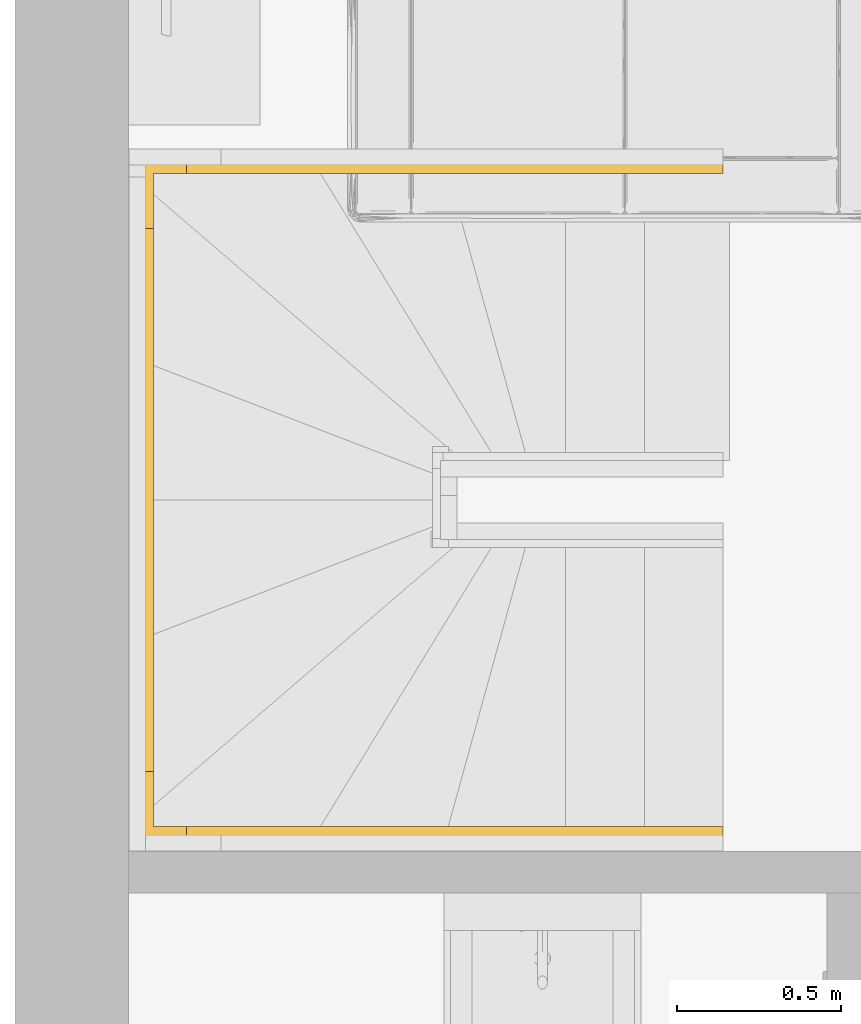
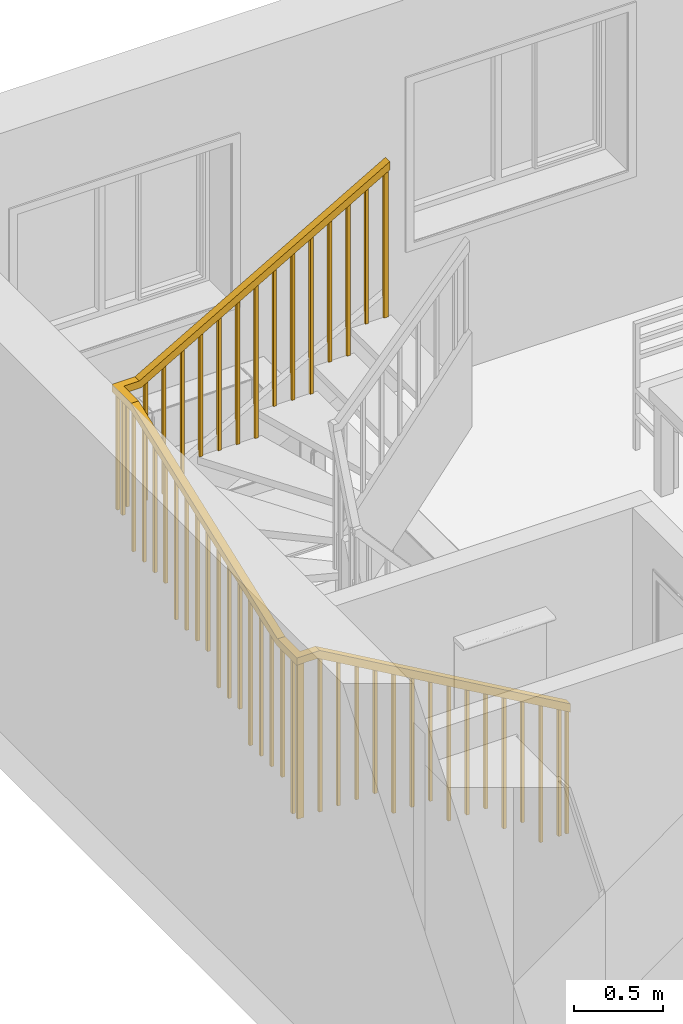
# One storey, part 30 of 65: 1 railing, 1 element without a shape of its own.
"""IFC2X3 building model written with IfcOpenShell, lengths in millimetres."""

from ifc_helpers import new_model, entity, si_unit, converted_unit, direction, frame, origin, place, context, subcontext, project, spatial, faceted_brep, material, type_object, element, aggregate, save


model = new_model("IFC2X3")

# Units and contexts
model_context = context("Model", 3, precision=0.01, world=origin(), true_north=direction((0.0, 1.0)))
body_context = subcontext(model_context, "Body", "Model", "MODEL_VIEW")
ifc_project = project(units=[si_unit("LENGTHUNIT", "METRE", prefix="MILLI"), si_unit("AREAUNIT", "SQUARE_METRE"), si_unit("VOLUMEUNIT", "CUBIC_METRE"), converted_unit("PLANEANGLEUNIT", "DEGREE", entity("IfcPlaneAngleMeasure", 0.017453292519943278), si_unit("PLANEANGLEUNIT", "RADIAN"), dimensions=[0, 0, 0, 0, 0, 0, 0])], contexts=[model_context])

# Site, building, storey
site_placement = place(None, origin())
site = spatial("IfcSite", under=ifc_project, at=site_placement, Name="Default", CompositionType="ELEMENT")
building_placement = place(site_placement, origin())
building = spatial("IfcBuilding", under=site, at=building_placement, CompositionType="ELEMENT")
storey_placement = place(building_placement, origin())
storey = spatial("IfcBuildingStorey", under=building, at=storey_placement, Name="Et. 1", CompositionType="ELEMENT", Elevation=0.0)

# Stair, railing
type_product = type_object("IfcTypeProduct", Name="Assembled Stair:Tretrapp - Åpne trinn m/ vanger")
stair_placement = place(storey_placement, origin())
stair = element("IfcStair", 1, at=stair_placement, inside=storey, type_object=type_product, Name="Assembled Stair:Stair", ShapeType="NOTDEFINED")
ifc_material = material(Name="Metall - Malt - MØRK GRÅ MATT")
railing_type = type_object("IfcRailingType", Name="Railing:900mm", PredefinedType="NOTDEFINED")
railing_placement = place(stair_placement, frame((10463.268455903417, 14245.55178763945, 178.73333333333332)))
railing = element("IfcRailing", 2, at=railing_placement, type_object=railing_type, material=ifc_material, Name="Railing:900mm", PredefinedType="NOTDEFINED", context=body_context, shape_type="Brep", body=[
    faceted_brep([(1755.0, 2054.199999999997, 3334.94499683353), (1755.0, 2074.199999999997, 3334.94499683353), (1755.0, 2074.199999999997, 2323.5333333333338), (1755.0, 2054.199999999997, 2323.5333333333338), (1775.0, 2074.199999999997, 3346.4569725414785), (1775.0, 2074.199999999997, 2323.5333333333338), (1775.0, 2054.199999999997, 3346.4569725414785), (1775.0, 2054.199999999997, 2323.5333333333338)], [[[0, 1, 2, 3]], [[1, 4, 5, 2]], [[4, 6, 7, 5]], [[3, 7, 6, 0]], [[0, 6, 4, 1]], [[2, 5, 7, 3]]]),
    faceted_brep([(1635.0, 2054.199999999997, 3265.8731425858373), (1635.0, 2074.199999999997, 3265.8731425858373), (1635.0, 2074.199999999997, 2323.5333333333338), (1635.0, 2054.199999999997, 2323.5333333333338), (1655.0, 2074.199999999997, 3277.385118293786), (1655.0, 2074.199999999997, 2323.5333333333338), (1655.0, 2054.199999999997, 3277.385118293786), (1655.0, 2054.199999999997, 2323.5333333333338)], [[[0, 1, 2, 3]], [[1, 4, 5, 2]], [[4, 6, 7, 5]], [[3, 7, 6, 0]], [[0, 6, 4, 1]], [[2, 5, 7, 3]]]),
    faceted_brep([(1515.0, 2054.199999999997, 3196.801288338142), (1515.0, 2074.199999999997, 3196.8012883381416), (1515.0, 2074.199999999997, 2144.8), (1515.0, 2054.199999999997, 2144.8000000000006), (1535.0, 2074.199999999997, 3208.313264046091), (1535.0, 2074.199999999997, 2144.8), (1535.0, 2054.199999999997, 3208.313264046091), (1535.0, 2054.199999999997, 2144.8)], [[[0, 1, 2, 3]], [[1, 4, 5, 2]], [[4, 6, 7, 5]], [[3, 7, 6, 0]], [[0, 6, 4, 1]], [[2, 5, 7, 3]]]),
    faceted_brep([(1395.0, 2054.199999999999, 3127.72943409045), (1395.0, 2074.199999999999, 3127.72943409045), (1395.0, 2074.199999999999, 2144.8000000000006), (1395.0, 2054.199999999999, 2144.8000000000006), (1415.0, 2074.199999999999, 3139.241409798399), (1415.0, 2074.199999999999, 2144.8000000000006), (1415.0, 2054.199999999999, 3139.241409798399), (1415.0, 2054.199999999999, 2144.8000000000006)], [[[0, 1, 2, 3]], [[1, 4, 5, 2]], [[4, 6, 7, 5]], [[3, 7, 6, 0]], [[0, 6, 4, 1]], [[2, 5, 7, 3]]]),
    faceted_brep([(1275.0, 2054.199999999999, 3058.6575798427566), (1275.0, 2074.199999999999, 3058.6575798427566), (1275.0, 2074.199999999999, 1966.0666666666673), (1275.0, 2054.199999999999, 1966.0666666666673), (1295.0, 2074.199999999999, 3070.169555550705), (1295.0, 2074.199999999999, 1966.0666666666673), (1295.0, 2054.199999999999, 3070.169555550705), (1295.0, 2054.199999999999, 1966.0666666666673)], [[[0, 1, 2, 3]], [[1, 4, 5, 2]], [[4, 6, 7, 5]], [[3, 7, 6, 0]], [[0, 6, 4, 1]], [[2, 5, 7, 3]]]),
    faceted_brep([(1155.0, 2054.199999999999, 2989.585725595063), (1155.0, 2074.199999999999, 2989.585725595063), (1155.0, 2074.199999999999, 1966.0666666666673), (1155.0, 2054.199999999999, 1966.0666666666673), (1175.0, 2074.199999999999, 3001.097701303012), (1175.0, 2074.199999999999, 1966.0666666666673), (1175.0, 2054.199999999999, 3001.097701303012), (1175.0, 2054.199999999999, 1966.0666666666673)], [[[0, 1, 2, 3]], [[1, 4, 5, 2]], [[4, 6, 7, 5]], [[3, 7, 6, 0]], [[0, 6, 4, 1]], [[2, 5, 7, 3]]]),
    faceted_brep([(1035.0, 2054.199999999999, 2920.5138713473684), (1035.0, 2074.199999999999, 2920.5138713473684), (1035.0, 2074.199999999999, 1966.0666666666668), (1035.0, 2054.199999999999, 1966.0666666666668), (1055.0, 2074.199999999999, 2932.0258470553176), (1055.0, 2074.199999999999, 1966.0666666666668), (1055.0, 2054.199999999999, 2932.0258470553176), (1055.0, 2054.199999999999, 1966.0666666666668)], [[[0, 1, 2, 3]], [[1, 4, 5, 2]], [[4, 6, 7, 5]], [[3, 7, 6, 0]], [[0, 6, 4, 1]], [[2, 5, 7, 3]]]),
    faceted_brep([(915.0, 2054.199999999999, 2851.4420170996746), (915.0, 2074.199999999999, 2851.4420170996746), (915.0, 2074.199999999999, 1787.3333333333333), (915.0, 2054.199999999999, 1787.3333333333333), (935.0, 2074.199999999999, 2862.953992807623), (935.0, 2074.199999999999, 1787.3333333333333), (935.0, 2054.199999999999, 2862.953992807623), (935.0, 2054.199999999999, 1787.3333333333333)], [[[0, 1, 2, 3]], [[1, 4, 5, 2]], [[4, 6, 7, 5]], [[3, 7, 6, 0]], [[0, 6, 4, 1]], [[2, 5, 7, 3]]]),
    faceted_brep([(795.0, 2054.2000000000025, 2782.3701628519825), (795.0, 2074.2000000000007, 2782.3701628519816), (795.0, 2074.2000000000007, 1787.333333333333), (795.0, 2054.2000000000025, 1787.333333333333), (815.0, 2074.2000000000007, 2793.882138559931), (815.0, 2074.2000000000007, 1787.333333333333), (815.0, 2054.2000000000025, 2793.882138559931), (815.0, 2054.2000000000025, 1787.333333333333)], [[[0, 1, 2, 3]], [[1, 4, 5, 2]], [[4, 6, 7, 5]], [[3, 7, 6, 0]], [[0, 6, 4, 1]], [[2, 5, 7, 3]]]),
    faceted_brep([(675.0, 2054.2000000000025, 2713.2983086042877), (675.0, 2074.2000000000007, 2713.2983086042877), (675.0, 2074.2000000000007, 1787.333333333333), (675.0, 2054.2000000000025, 1787.333333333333), (695.0, 2074.2000000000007, 2724.810284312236), (695.0, 2074.2000000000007, 1787.333333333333), (695.0, 2054.2000000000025, 2724.810284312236), (695.0, 2054.2000000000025, 1787.333333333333)], [[[0, 1, 2, 3]], [[1, 4, 5, 2]], [[4, 6, 7, 5]], [[3, 7, 6, 0]], [[0, 6, 4, 1]], [[2, 5, 7, 3]]]),
    faceted_brep([(555.0, 2054.2000000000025, 2644.226454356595), (555.0, 2074.2000000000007, 2644.2264543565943), (555.0, 2074.2000000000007, 1787.3333333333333), (555.0, 2054.2000000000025, 1787.3333333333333), (575.0, 2074.2000000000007, 2655.7384300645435), (575.0, 2074.2000000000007, 1787.3333333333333), (575.0, 2054.2000000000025, 2655.7384300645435), (575.0, 2054.2000000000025, 1787.3333333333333)], [[[0, 1, 2, 3]], [[1, 4, 5, 2]], [[4, 6, 7, 5]], [[3, 7, 6, 0]], [[0, 6, 4, 1]], [[2, 5, 7, 3]]]),
    faceted_brep([(435.0, 2054.2000000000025, 2575.1546001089), (435.0, 2074.2000000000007, 2575.1546001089), (435.0, 2074.2000000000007, 1608.5999999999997), (435.0, 2054.2000000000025, 1608.5999999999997), (455.0, 2074.2000000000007, 2586.666575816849), (455.0, 2074.2000000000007, 1608.5999999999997), (455.0, 2054.2000000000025, 2586.666575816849), (455.0, 2054.2000000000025, 1608.5999999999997)], [[[0, 1, 2, 3]], [[1, 4, 5, 2]], [[4, 6, 7, 5]], [[3, 7, 6, 0]], [[0, 6, 4, 1]], [[2, 5, 7, 3]]]),
    faceted_brep([(315.0, 2054.2000000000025, 2506.082745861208), (315.0, 2074.2000000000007, 2506.0827458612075), (315.0, 2074.2000000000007, 1608.5999999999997), (315.0, 2054.2000000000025, 1608.5999999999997), (335.0, 2074.2000000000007, 2517.5947215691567), (335.0, 2074.2000000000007, 1608.5999999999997), (335.0, 2054.2000000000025, 2517.5947215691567), (335.0, 2054.2000000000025, 1608.5999999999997)], [[[0, 1, 2, 3]], [[1, 4, 5, 2]], [[4, 6, 7, 5]], [[3, 7, 6, 0]], [[0, 6, 4, 1]], [[2, 5, 7, 3]]]),
    faceted_brep([(195.0, 2054.2000000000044, 2437.0108916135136), (195.0, 2074.2000000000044, 2437.0108916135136), (195.0, 2074.2000000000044, 1608.5999999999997), (195.0, 2054.2000000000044, 1608.5999999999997), (215.0, 2074.2000000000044, 2448.522867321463), (215.0, 2074.2000000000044, 1608.5999999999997), (215.0, 2054.2000000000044, 2448.522867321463), (215.0, 2054.2000000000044, 1608.5999999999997)], [[[0, 1, 2, 3]], [[1, 4, 5, 2]], [[4, 6, 7, 5]], [[3, 7, 6, 0]], [[0, 6, 4, 1]], [[2, 5, 7, 3]]]),
    faceted_brep([(75.0, 2054.2000000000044, 2411.399065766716), (75.0, 2074.2000000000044, 2411.399065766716), (75.0, 2074.2000000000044, 1608.5999999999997), (75.0, 2054.2000000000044, 1608.5999999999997), (95.0, 2074.2000000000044, 2411.399065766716), (95.0, 2074.2000000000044, 1608.5999999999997), (95.0, 2054.2000000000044, 2411.399065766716), (95.0, 2054.2000000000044, 1608.5999999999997)], [[[0, 1, 2, 3]], [[1, 4, 5, 2]], [[4, 6, 7, 5]], [[3, 7, 6, 0]], [[0, 6, 4, 1]], [[2, 5, 7, 3]]]),
    faceted_brep([(35.0, 1995.0, 2411.399065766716), (15.0, 1995.0, 2411.399065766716), (15.0, 1995.0, 1608.5999999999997), (35.0, 1995.0, 1608.5999999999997), (15.0, 2015.0, 2411.399065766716), (15.0, 2015.0, 1608.5999999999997), (35.0, 2015.0, 2411.399065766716), (35.0, 2015.0, 1608.5999999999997)], [[[0, 1, 2, 3]], [[1, 4, 5, 2]], [[4, 6, 7, 5]], [[3, 7, 6, 0]], [[0, 6, 4, 1]], [[2, 5, 7, 3]]]),
    faceted_brep([(35.0, 1875.0, 2411.399065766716), (15.0, 1875.0, 2411.399065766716), (15.0, 1875.0, 1429.866666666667), (35.0, 1875.0, 1429.866666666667), (15.0, 1895.0, 2411.399065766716), (15.0, 1895.0, 1429.866666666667), (35.0, 1895.0, 2411.399065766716), (35.0, 1895.0, 1429.866666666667)], [[[0, 1, 2, 3]], [[1, 4, 5, 2]], [[4, 6, 7, 5]], [[3, 7, 6, 0]], [[0, 6, 4, 1]], [[2, 5, 7, 3]]]),
    faceted_brep([(35.0, 1755.0, 2367.6418164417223), (15.0, 1755.0, 2367.6418164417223), (15.0, 1755.0, 1429.8666666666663), (35.0, 1755.0, 1429.8666666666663), (15.0, 1775.0, 2375.144870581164), (15.0, 1775.0, 1429.8666666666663), (35.0, 1775.0, 2375.144870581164), (35.0, 1775.0, 1429.8666666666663)], [[[0, 1, 2, 3]], [[1, 4, 5, 2]], [[4, 6, 7, 5]], [[3, 7, 6, 0]], [[0, 6, 4, 1]], [[2, 5, 7, 3]]]),
    faceted_brep([(35.0, 1635.0, 2322.6234916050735), (15.0, 1635.0, 2322.6234916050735), (15.0, 1635.0, 1429.866666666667), (35.0, 1635.0, 1429.866666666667), (15.0, 1655.0, 2330.126545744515), (15.0, 1655.0, 1429.866666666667), (35.0, 1655.0, 2330.126545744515), (35.0, 1655.0, 1429.866666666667)], [[[0, 1, 2, 3]], [[1, 4, 5, 2]], [[4, 6, 7, 5]], [[3, 7, 6, 0]], [[0, 6, 4, 1]], [[2, 5, 7, 3]]]),
    faceted_brep([(35.0, 1515.0, 2277.605166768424), (15.0, 1515.0, 2277.605166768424), (15.0, 1515.0, 1429.8666666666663), (35.0, 1515.0, 1429.8666666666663), (15.0, 1535.0, 2285.1082209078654), (15.0, 1535.0, 1429.8666666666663), (35.0, 1535.0, 2285.1082209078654), (35.0, 1535.0, 1429.8666666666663)], [[[0, 1, 2, 3]], [[1, 4, 5, 2]], [[4, 6, 7, 5]], [[3, 7, 6, 0]], [[0, 6, 4, 1]], [[2, 5, 7, 3]]]),
    faceted_brep([(35.0, 1395.0, 2232.5868419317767), (15.0, 1395.0, 2232.5868419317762), (15.0, 1395.0, 1251.1333333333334), (35.0, 1395.0, 1251.1333333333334), (15.0, 1415.0, 2240.089896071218), (15.0, 1415.0, 1251.1333333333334), (35.0, 1415.0, 2240.089896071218), (35.0, 1415.0, 1251.1333333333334)], [[[0, 1, 2, 3]], [[1, 4, 5, 2]], [[4, 6, 7, 5]], [[3, 7, 6, 0]], [[0, 6, 4, 1]], [[2, 5, 7, 3]]]),
    faceted_brep([(35.0, 1275.0, 2187.5685170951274), (15.0, 1275.0, 2187.5685170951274), (15.0, 1275.0, 1251.1333333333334), (35.0, 1275.0, 1251.1333333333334), (15.0, 1295.0, 2195.071571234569), (15.0, 1295.0, 1251.1333333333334), (35.0, 1295.0, 2195.071571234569), (35.0, 1295.0, 1251.1333333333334)], [[[0, 1, 2, 3]], [[1, 4, 5, 2]], [[4, 6, 7, 5]], [[3, 7, 6, 0]], [[0, 6, 4, 1]], [[2, 5, 7, 3]]]),
    faceted_brep([(35.0, 1155.0, 2142.5501922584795), (15.0, 1155.0, 2142.550192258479), (15.0, 1155.0, 1251.1333333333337), (35.0, 1155.0, 1251.1333333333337), (15.0, 1175.0, 2150.0532463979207), (15.0, 1175.0, 1251.1333333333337), (35.0, 1175.0, 2150.0532463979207), (35.0, 1175.0, 1251.1333333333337)], [[[0, 1, 2, 3]], [[1, 4, 5, 2]], [[4, 6, 7, 5]], [[3, 7, 6, 0]], [[0, 6, 4, 1]], [[2, 5, 7, 3]]]),
    faceted_brep([(35.0, 1035.0, 2097.53186742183), (15.0, 1035.0, 2097.53186742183), (15.0, 1035.0, 1251.1333333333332), (35.0, 1035.0, 1251.1333333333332), (15.0, 1055.0, 2105.034921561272), (15.0, 1055.0, 1251.1333333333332), (35.0, 1055.0, 2105.034921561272), (35.0, 1055.0, 1251.1333333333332)], [[[0, 1, 2, 3]], [[1, 4, 5, 2]], [[4, 6, 7, 5]], [[3, 7, 6, 0]], [[0, 6, 4, 1]], [[2, 5, 7, 3]]]),
    faceted_brep([(35.0, 915.0, 2052.5135425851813), (15.0, 915.0, 2052.5135425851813), (15.0, 915.0, 1072.3999999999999), (35.0, 915.0, 1072.3999999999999), (15.0, 935.0, 2060.0165967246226), (15.0, 935.0, 1072.3999999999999), (35.0, 935.0, 2060.0165967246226), (35.0, 935.0, 1072.3999999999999)], [[[0, 1, 2, 3]], [[1, 4, 5, 2]], [[4, 6, 7, 5]], [[3, 7, 6, 0]], [[0, 6, 4, 1]], [[2, 5, 7, 3]]]),
    faceted_brep([(35.0, 795.0, 2007.4952177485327), (15.0, 795.0, 2007.4952177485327), (15.0, 795.0, 1072.4), (35.0, 795.0, 1072.4), (15.0, 815.0, 2014.998271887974), (15.0, 815.0, 1072.4), (35.0, 815.0, 2014.998271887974), (35.0, 815.0, 1072.4)], [[[0, 1, 2, 3]], [[1, 4, 5, 2]], [[4, 6, 7, 5]], [[3, 7, 6, 0]], [[0, 6, 4, 1]], [[2, 5, 7, 3]]]),
    faceted_brep([(35.0, 675.0, 1962.4768929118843), (15.0, 675.0, 1962.4768929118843), (15.0, 675.0, 1072.4), (35.0, 675.0, 1072.4), (15.0, 695.0, 1969.9799470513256), (15.0, 695.0, 1072.4), (35.0, 695.0, 1969.9799470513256), (35.0, 695.0, 1072.4)], [[[0, 1, 2, 3]], [[1, 4, 5, 2]], [[4, 6, 7, 5]], [[3, 7, 6, 0]], [[0, 6, 4, 1]], [[2, 5, 7, 3]]]),
    faceted_brep([(35.0, 555.0, 1917.4585680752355), (15.0, 555.0, 1917.4585680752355), (15.0, 555.0, 893.6666666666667), (35.0, 555.0, 893.6666666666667), (15.0, 575.0, 1924.9616222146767), (15.0, 575.0, 893.6666666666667), (35.0, 575.0, 1924.9616222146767), (35.0, 575.0, 893.6666666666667)], [[[0, 1, 2, 3]], [[1, 4, 5, 2]], [[4, 6, 7, 5]], [[3, 7, 6, 0]], [[0, 6, 4, 1]], [[2, 5, 7, 3]]]),
    faceted_brep([(35.0, 435.0, 1872.4402432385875), (15.0, 435.0, 1872.4402432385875), (15.0, 435.0, 893.666666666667), (35.0, 435.0, 893.666666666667), (15.0, 455.0, 1879.9432973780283), (15.0, 455.0, 893.666666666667), (35.0, 455.0, 1879.9432973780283), (35.0, 455.0, 893.666666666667)], [[[0, 1, 2, 3]], [[1, 4, 5, 2]], [[4, 6, 7, 5]], [[3, 7, 6, 0]], [[0, 6, 4, 1]], [[2, 5, 7, 3]]]),
    faceted_brep([(35.0, 315.0, 1827.4219184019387), (15.0, 315.0, 1827.4219184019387), (15.0, 315.0, 893.6666666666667), (35.0, 315.0, 893.6666666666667), (15.0, 335.0, 1834.92497254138), (15.0, 335.0, 893.6666666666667), (35.0, 335.0, 1834.92497254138), (35.0, 335.0, 893.6666666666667)], [[[0, 1, 2, 3]], [[1, 4, 5, 2]], [[4, 6, 7, 5]], [[3, 7, 6, 0]], [[0, 6, 4, 1]], [[2, 5, 7, 3]]]),
    faceted_brep([(35.0, 195.0, 1790.8676010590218), (15.0, 195.0, 1790.867601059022), (15.0, 195.0, 893.6666666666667), (35.0, 195.0, 893.6666666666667), (15.0, 215.0, 1790.867601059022), (15.0, 215.0, 893.6666666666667), (35.0, 215.0, 1790.867601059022), (35.0, 215.0, 893.6666666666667)], [[[0, 1, 2, 3]], [[1, 4, 5, 2]], [[4, 6, 7, 5]], [[3, 7, 6, 0]], [[0, 6, 4, 1]], [[2, 5, 7, 3]]]),
    faceted_brep([(35.0, 75.0, 1790.8676010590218), (15.0, 75.0, 1790.8676010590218), (15.0, 75.0, 714.9333333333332), (35.0, 75.0, 714.9333333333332), (15.0, 95.0, 1790.8676010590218), (15.0, 95.0, 714.9333333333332), (35.0, 95.0, 1790.8676010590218), (35.0, 95.0, 714.9333333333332)], [[[0, 1, 2, 3]], [[1, 4, 5, 2]], [[4, 6, 7, 5]], [[3, 7, 6, 0]], [[0, 6, 4, 1]], [[2, 5, 7, 3]]]),
    faceted_brep([(55.09330515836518, 35.0, 1790.8676010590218), (55.09330515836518, 15.0, 1790.8676010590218), (55.09330515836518, 15.0, 714.9333333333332), (55.09330515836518, 35.0, 714.9333333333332), (35.093305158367, 15.0, 1790.8676010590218), (35.093305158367, 15.0, 714.9333333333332), (35.093305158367, 35.0, 1790.8676010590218), (35.093305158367, 35.0, 714.9333333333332)], [[[0, 1, 2, 3]], [[1, 4, 5, 2]], [[4, 6, 7, 5]], [[3, 7, 6, 0]], [[0, 6, 4, 1]], [[2, 5, 7, 3]]]),
    faceted_brep([(175.093305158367, 35.0, 1776.7140445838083), (175.093305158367, 15.0, 1776.7140445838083), (175.093305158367, 15.0, 714.9333333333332), (175.093305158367, 35.0, 714.9333333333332), (155.093305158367, 15.0, 1788.2260202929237), (155.093305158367, 15.0, 714.9333333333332), (155.093305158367, 35.0, 1788.2260202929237), (155.093305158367, 35.0, 714.9333333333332)], [[[0, 1, 2, 3]], [[1, 4, 5, 2]], [[4, 6, 7, 5]], [[3, 7, 6, 0]], [[0, 6, 4, 1]], [[2, 5, 7, 3]]]),
    faceted_brep([(295.093305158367, 35.0, 1707.642190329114), (295.093305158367, 15.0, 1707.642190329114), (295.093305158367, 15.0, 714.9333333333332), (295.093305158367, 35.0, 714.9333333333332), (275.0933051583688, 15.0, 1719.15416603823), (275.0933051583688, 15.0, 714.9333333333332), (275.0933051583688, 35.0, 1719.15416603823), (275.0933051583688, 35.0, 714.9333333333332)], [[[0, 1, 2, 3]], [[1, 4, 5, 2]], [[4, 6, 7, 5]], [[3, 7, 6, 0]], [[0, 6, 4, 1]], [[2, 5, 7, 3]]]),
    faceted_brep([(415.093305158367, 35.0, 1638.5703360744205), (415.093305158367, 15.0, 1638.5703360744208), (415.093305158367, 15.0, 714.9333333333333), (415.093305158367, 35.0, 714.9333333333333), (395.093305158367, 15.0, 1650.0823117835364), (395.093305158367, 15.0, 714.9333333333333), (395.093305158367, 35.0, 1650.0823117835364), (395.093305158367, 35.0, 714.9333333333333)], [[[0, 1, 2, 3]], [[1, 4, 5, 2]], [[4, 6, 7, 5]], [[3, 7, 6, 0]], [[0, 6, 4, 1]], [[2, 5, 7, 3]]]),
    faceted_brep([(535.093305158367, 35.0, 1569.4984818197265), (535.093305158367, 15.0, 1569.4984818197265), (535.093305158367, 15.0, 714.9333333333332), (535.093305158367, 35.0, 714.9333333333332), (515.093305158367, 15.0, 1581.010457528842), (515.093305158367, 15.0, 714.9333333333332), (515.093305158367, 35.0, 1581.010457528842), (515.093305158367, 35.0, 714.9333333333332)], [[[0, 1, 2, 3]], [[1, 4, 5, 2]], [[4, 6, 7, 5]], [[3, 7, 6, 0]], [[0, 6, 4, 1]], [[2, 5, 7, 3]]]),
    faceted_brep([(655.0933051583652, 35.0, 1500.4266275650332), (655.0933051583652, 15.0, 1500.426627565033), (655.0933051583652, 15.0, 536.1999999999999), (655.0933051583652, 35.0, 536.1999999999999), (635.093305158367, 15.0, 1511.9386032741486), (635.093305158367, 15.0, 536.1999999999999), (635.093305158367, 35.0, 1511.9386032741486), (635.093305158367, 35.0, 536.1999999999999)], [[[0, 1, 2, 3]], [[1, 4, 5, 2]], [[4, 6, 7, 5]], [[3, 7, 6, 0]], [[0, 6, 4, 1]], [[2, 5, 7, 3]]]),
    faceted_brep([(775.093305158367, 35.0, 1431.3547733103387), (775.093305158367, 15.0, 1431.3547733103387), (775.093305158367, 15.0, 536.2), (775.093305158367, 35.0, 536.2), (755.093305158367, 15.0, 1442.8667490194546), (755.093305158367, 15.0, 536.2), (755.093305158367, 35.0, 1442.8667490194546), (755.093305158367, 35.0, 536.2)], [[[0, 1, 2, 3]], [[1, 4, 5, 2]], [[4, 6, 7, 5]], [[3, 7, 6, 0]], [[0, 6, 4, 1]], [[2, 5, 7, 3]]]),
    faceted_brep([(895.093305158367, 35.0, 1362.2829190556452), (895.093305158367, 15.0, 1362.282919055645), (895.093305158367, 15.0, 536.1999999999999), (895.093305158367, 35.0, 536.1999999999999), (875.0933051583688, 15.0, 1373.7948947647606), (875.0933051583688, 15.0, 536.1999999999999), (875.0933051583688, 35.0, 1373.7948947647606), (875.0933051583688, 35.0, 536.1999999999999)], [[[0, 1, 2, 3]], [[1, 4, 5, 2]], [[4, 6, 7, 5]], [[3, 7, 6, 0]], [[0, 6, 4, 1]], [[2, 5, 7, 3]]]),
    faceted_brep([(1015.093305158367, 35.0, 1293.2110648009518), (1015.093305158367, 15.0, 1293.2110648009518), (1015.093305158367, 15.0, 357.4666666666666), (1015.093305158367, 35.0, 357.4666666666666), (995.093305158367, 15.0, 1304.7230405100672), (995.093305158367, 15.0, 357.4666666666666), (995.093305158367, 35.0, 1304.7230405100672), (995.093305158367, 35.0, 357.4666666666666)], [[[0, 1, 2, 3]], [[1, 4, 5, 2]], [[4, 6, 7, 5]], [[3, 7, 6, 0]], [[0, 6, 4, 1]], [[2, 5, 7, 3]]]),
    faceted_brep([(1135.093305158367, 35.0, 1224.1392105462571), (1135.093305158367, 15.0, 1224.139210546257), (1135.093305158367, 15.0, 357.4666666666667), (1135.093305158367, 35.0, 357.4666666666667), (1115.093305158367, 15.0, 1235.6511862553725), (1115.093305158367, 15.0, 357.4666666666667), (1115.093305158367, 35.0, 1235.6511862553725), (1115.093305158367, 35.0, 357.4666666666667)], [[[0, 1, 2, 3]], [[1, 4, 5, 2]], [[4, 6, 7, 5]], [[3, 7, 6, 0]], [[0, 6, 4, 1]], [[2, 5, 7, 3]]]),
    faceted_brep([(1255.0933051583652, 35.0, 1155.0673562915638), (1255.0933051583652, 15.0, 1155.067356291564), (1255.0933051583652, 15.0, 357.4666666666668), (1255.0933051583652, 35.0, 357.4666666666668), (1235.093305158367, 15.0, 1166.5793320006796), (1235.093305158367, 15.0, 357.4666666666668), (1235.093305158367, 35.0, 1166.5793320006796), (1235.093305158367, 35.0, 357.4666666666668)], [[[0, 1, 2, 3]], [[1, 4, 5, 2]], [[4, 6, 7, 5]], [[3, 7, 6, 0]], [[0, 6, 4, 1]], [[2, 5, 7, 3]]]),
    faceted_brep([(1375.093305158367, 35.0, 1085.99550203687), (1375.093305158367, 15.0, 1085.99550203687), (1375.093305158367, 15.0, 178.73333333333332), (1375.093305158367, 35.0, 178.73333333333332), (1355.093305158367, 15.0, 1097.5074777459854), (1355.093305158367, 15.0, 178.73333333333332), (1355.093305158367, 35.0, 1097.5074777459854), (1355.093305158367, 35.0, 178.73333333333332)], [[[0, 1, 2, 3]], [[1, 4, 5, 2]], [[4, 6, 7, 5]], [[3, 7, 6, 0]], [[0, 6, 4, 1]], [[2, 5, 7, 3]]]),
    faceted_brep([(1495.093305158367, 35.0, 1016.9236477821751), (1495.093305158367, 15.0, 1016.9236477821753), (1495.093305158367, 15.0, 178.73333333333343), (1495.093305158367, 35.0, 178.73333333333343), (1475.0933051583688, 15.0, 1028.435623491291), (1475.0933051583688, 15.0, 178.73333333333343), (1475.0933051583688, 35.0, 1028.435623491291), (1475.0933051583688, 35.0, 178.73333333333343)], [[[0, 1, 2, 3]], [[1, 4, 5, 2]], [[4, 6, 7, 5]], [[3, 7, 6, 0]], [[0, 6, 4, 1]], [[2, 5, 7, 3]]]),
    faceted_brep([(1615.093305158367, 35.0, 947.8517935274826), (1615.093305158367, 15.0, 947.8517935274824), (1615.093305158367, 15.0, 0.0), (1615.093305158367, 35.0, 0.0), (1595.093305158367, 15.0, 959.363769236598), (1595.093305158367, 15.0, 0.0), (1595.093305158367, 35.0, 959.363769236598), (1595.093305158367, 35.0, 0.0)], [[[0, 1, 2, 3]], [[1, 4, 5, 2]], [[4, 6, 7, 5]], [[3, 7, 6, 0]], [[0, 6, 4, 1]], [[2, 5, 7, 3]]]),
    faceted_brep([(1735.093305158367, 35.0, 878.7799392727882), (1735.093305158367, 15.0, 878.7799392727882), (1735.093305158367, 15.0, 0.0), (1735.093305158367, 35.0, 0.0), (1715.093305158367, 15.0, 890.2919149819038), (1715.093305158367, 15.0, 0.0), (1715.093305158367, 35.0, 890.2919149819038), (1715.093305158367, 35.0, 0.0)], [[[0, 1, 2, 3]], [[1, 4, 5, 2]], [[4, 6, 7, 5]], [[3, 7, 6, 0]], [[0, 6, 4, 1]], [[2, 5, 7, 3]]]),
    faceted_brep([(35.0, 2054.2000000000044, 2411.399065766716), (15.0, 2054.2000000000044, 2411.399065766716), (15.0, 2054.2000000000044, 1608.5999999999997), (35.0, 2054.2000000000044, 1608.5999999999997), (15.0, 2074.2000000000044, 2411.399065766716), (15.0, 2074.2000000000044, 1608.5999999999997), (35.0, 2074.2000000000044, 2411.399065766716), (35.0, 2074.2000000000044, 1608.5999999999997)], [[[0, 1, 2, 3]], [[1, 4, 5, 2]], [[4, 6, 7, 5]], [[3, 7, 6, 0]], [[0, 6, 4, 1]], [[2, 5, 7, 3]]]),
    faceted_brep([(35.0, 35.0, 1790.8676010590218), (35.0, 15.0, 1790.8676010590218), (35.0, 15.0, 714.9333333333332), (35.0, 35.0, 714.9333333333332), (15.0, 15.0, 1790.8676010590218), (15.0, 15.0, 714.9333333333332), (15.0, 35.0, 1790.8676010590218), (15.0, 35.0, 714.9333333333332)], [[[0, 1, 2, 3]], [[1, 4, 5, 2]], [[4, 6, 7, 5]], [[3, 7, 6, 0]], [[0, 6, 4, 1]], [[2, 5, 7, 3]]]),
    faceted_brep([(1765.0933050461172, 2054.199999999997, 3340.7546909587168), (1765.0933050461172, 2074.199999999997, 3340.7546909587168), (1765.0933050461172, 2074.199999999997, 2323.5333333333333), (1765.0933050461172, 2054.199999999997, 2323.5333333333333), (1785.0933050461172, 2074.199999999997, 3352.266666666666), (1785.0933050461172, 2074.199999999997, 2323.5333333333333), (1785.0933050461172, 2054.199999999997, 3352.266666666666), (1785.0933050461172, 2054.199999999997, 2323.5333333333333)], [[[0, 1, 2, 3]], [[1, 4, 5, 2]], [[4, 6, 7, 5]], [[3, 7, 6, 0]], [[0, 6, 4, 1]], [[2, 5, 7, 3]]]),
    faceted_brep([(1785.093305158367, 35.0, 850.0), (1785.093305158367, 15.0, 850.0), (1785.093305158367, 15.0, 0.0), (1785.093305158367, 35.0, 0.0), (1765.093305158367, 15.0, 861.5119757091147), (1765.093305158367, 15.0, 0.0), (1765.093305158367, 35.0, 861.5119757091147), (1765.093305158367, 35.0, 0.0)], [[[0, 1, 2, 3]], [[1, 4, 5, 2]], [[4, 6, 7, 5]], [[3, 7, 6, 0]], [[0, 6, 4, 1]], [[2, 5, 7, 3]]]),
    faceted_brep([(1785.093305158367, 0.0, 900.0), (1785.093305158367, 0.0, 842.308710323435), (1785.093305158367, 50.0, 842.308710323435), (1785.093305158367, 50.0, 900.0), (150.50403076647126, 0.0, 1840.867601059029), (137.1417897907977, 0.0, 1790.8676010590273), (137.1417897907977, 50.0, 1790.8676010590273), (150.50403076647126, 50.0, 1840.8676010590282), (50.0, 0.0, 1840.867601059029), (50.0, 50.0, 1840.8676010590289), (50.0, 50.0, 1790.8676010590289), (50.0, 0.0, 1790.867601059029)], [[[0, 1, 2, 3]], [[1, 0, 4, 5]], [[2, 1, 5, 6]], [[3, 2, 6, 7]], [[0, 3, 7, 4]], [[8, 9, 10, 11]], [[5, 4, 8, 11]], [[6, 5, 11, 10]], [[7, 6, 10, 9]], [[4, 7, 9, 8]]]),
    faceted_brep([(0.0, 0.0, 1840.8676010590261), (0.0, 0.0, 1790.8676010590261), (50.0, 0.0, 1790.8676010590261), (50.0, 0.0, 1840.8676010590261), (0.0, 217.5614991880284, 1840.8676010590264), (0.0, 226.63168520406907, 1790.867601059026), (50.0, 226.63168520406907, 1790.867601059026), (50.0, 217.5614991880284, 1840.8676010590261), (0.0, 1871.6385008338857, 2461.3990657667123), (0.0, 1880.7086868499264, 2411.3990657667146), (50.0, 1880.7086868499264, 2411.3990657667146), (50.0, 1871.6385008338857, 2461.3990657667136), (0.0, 2039.2000000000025, 2461.399065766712), (50.0, 2039.2000000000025, 2461.399065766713), (50.0, 2039.2000000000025, 2411.399065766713), (0.0, 2039.2000000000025, 2411.3990657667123)], [[[0, 1, 2, 3]], [[1, 0, 4, 5]], [[2, 1, 5, 6]], [[3, 2, 6, 7]], [[0, 3, 7, 4]], [[5, 4, 8, 9]], [[6, 5, 9, 10]], [[7, 6, 10, 11]], [[4, 7, 11, 8]], [[12, 13, 14, 15]], [[9, 8, 12, 15]], [[10, 9, 15, 14]], [[11, 10, 14, 13]], [[8, 11, 13, 12]]]),
    faceted_brep([(0.0, 2089.2000000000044, 2461.399065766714), (0.0, 2089.2000000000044, 2411.399065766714), (0.0, 2039.2000000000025, 2411.399065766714), (0.0, 2039.2000000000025, 2461.399065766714), (150.5040307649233, 2089.2000000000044, 2461.3990657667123), (163.8662717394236, 2089.2000000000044, 2411.399065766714), (163.8662717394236, 2039.2000000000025, 2411.399065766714), (150.5040307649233, 2039.2000000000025, 2461.399065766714), (1785.0933050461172, 2089.1999999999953, 3402.2666666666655), (1785.0933050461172, 2039.199999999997, 3402.2666666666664), (1785.0933050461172, 2039.199999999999, 3344.575376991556), (1785.0933050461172, 2089.199999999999, 3344.575376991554)], [[[0, 1, 2, 3]], [[1, 0, 4, 5]], [[2, 1, 5, 6]], [[3, 2, 6, 7]], [[0, 3, 7, 4]], [[8, 9, 10, 11]], [[5, 4, 8, 11]], [[6, 5, 11, 10]], [[7, 6, 10, 9]], [[4, 7, 9, 8]]]),
])
aggregate(stair, [railing])

save(model, "model.ifc")
